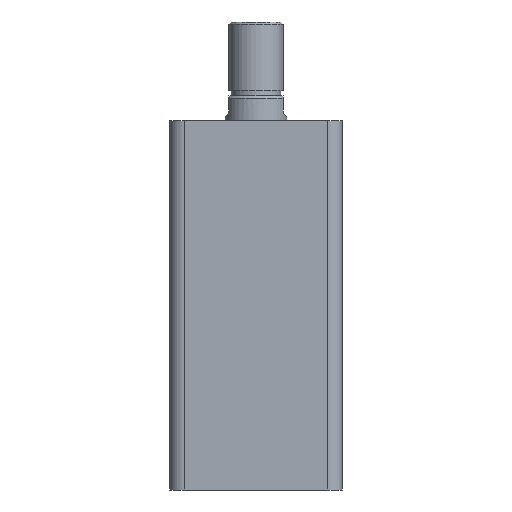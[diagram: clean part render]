
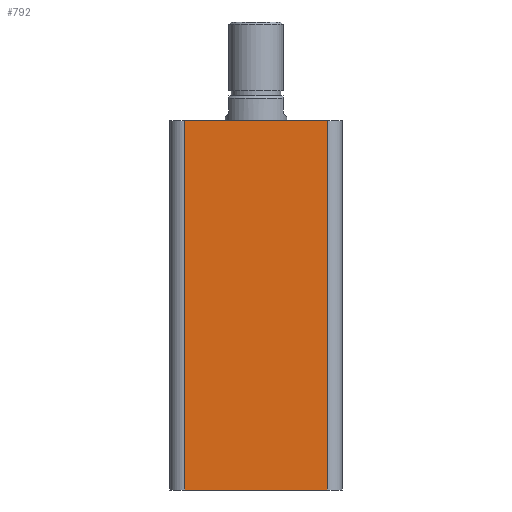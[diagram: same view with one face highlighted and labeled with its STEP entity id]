
A CAD part, front view. The second image highlights one B-rep face of the part: STEP entity #792.
In plain terms, the highlighted planar face has unit normal (0, -1, 0).
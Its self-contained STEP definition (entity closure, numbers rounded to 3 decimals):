
#231 = ORIENTED_EDGE ( 'NONE', *, *, #1656, .T. ) ;
#233 = ORIENTED_EDGE ( 'NONE', *, *, #1655, .T. ) ;
#252 = ORIENTED_EDGE ( 'NONE', *, *, #1654, .T. ) ;
#253 = ORIENTED_EDGE ( 'NONE', *, *, #1653, .F. ) ;
#441 = DIRECTION ( 'NONE',  ( 0., 0., 1. ) ) ;
#442 = CARTESIAN_POINT ( 'NONE',  ( 29., -35., 150. ) ) ;
#443 = DIRECTION ( 'NONE',  ( 1., 0., 0. ) ) ;
#444 = DIRECTION ( 'NONE',  ( 0., 0., -1. ) ) ;
#445 = CARTESIAN_POINT ( 'NONE',  ( -29., -35., 150. ) ) ;
#446 = DIRECTION ( 'NONE',  ( 1., 0., 0. ) ) ;
#447 = CARTESIAN_POINT ( 'NONE',  ( -35., -35., 150. ) ) ;
#460 = CARTESIAN_POINT ( 'NONE',  ( -35., -35., 0. ) ) ;
#681 = CARTESIAN_POINT ( 'NONE',  ( 29., -35., 0. ) ) ;
#727 = CARTESIAN_POINT ( 'NONE',  ( 29., -35., 150. ) ) ;
#734 = CARTESIAN_POINT ( 'NONE',  ( -29., -35., 150. ) ) ;
#756 = CARTESIAN_POINT ( 'NONE',  ( -29., -35., 0. ) ) ;
#792 = ADVANCED_FACE ( 'NONE', ( #1159 ), #2033, .F. ) ;
#1018 = VECTOR ( 'NONE', #441, 1000. ) ;
#1020 = VECTOR ( 'NONE', #443, 1000. ) ;
#1021 = LINE ( 'NONE', #442, #1018 ) ;
#1022 = VECTOR ( 'NONE', #444, 1000. ) ;
#1023 = VECTOR ( 'NONE', #446, 1000. ) ;
#1024 = LINE ( 'NONE', #445, #1022 ) ;
#1026 = LINE ( 'NONE', #447, #1023 ) ;
#1032 = LINE ( 'NONE', #460, #1020 ) ;
#1159 = FACE_OUTER_BOUND ( 'NONE', #1287, .T. ) ;
#1287 = EDGE_LOOP ( 'NONE', ( #253, #252, #233, #231 ) ) ;
#1424 = VERTEX_POINT ( 'NONE', #756 ) ;
#1432 = VERTEX_POINT ( 'NONE', #734 ) ;
#1437 = VERTEX_POINT ( 'NONE', #727 ) ;
#1474 = VERTEX_POINT ( 'NONE', #681 ) ;
#1604 = AXIS2_PLACEMENT_3D ( 'NONE', #2037, #2023, #2017 ) ;
#1653 = EDGE_CURVE ( 'NONE', #1432, #1437, #1026, .T. ) ;
#1654 = EDGE_CURVE ( 'NONE', #1432, #1424, #1024, .T. ) ;
#1655 = EDGE_CURVE ( 'NONE', #1424, #1474, #1032, .T. ) ;
#1656 = EDGE_CURVE ( 'NONE', #1474, #1437, #1021, .T. ) ;
#2017 = DIRECTION ( 'NONE',  ( 0., 0., 1. ) ) ;
#2023 = DIRECTION ( 'NONE',  ( 0., 1., 0. ) ) ;
#2033 = PLANE ( 'NONE',  #1604 ) ;
#2037 = CARTESIAN_POINT ( 'NONE',  ( -35., -35., 150. ) ) ;
